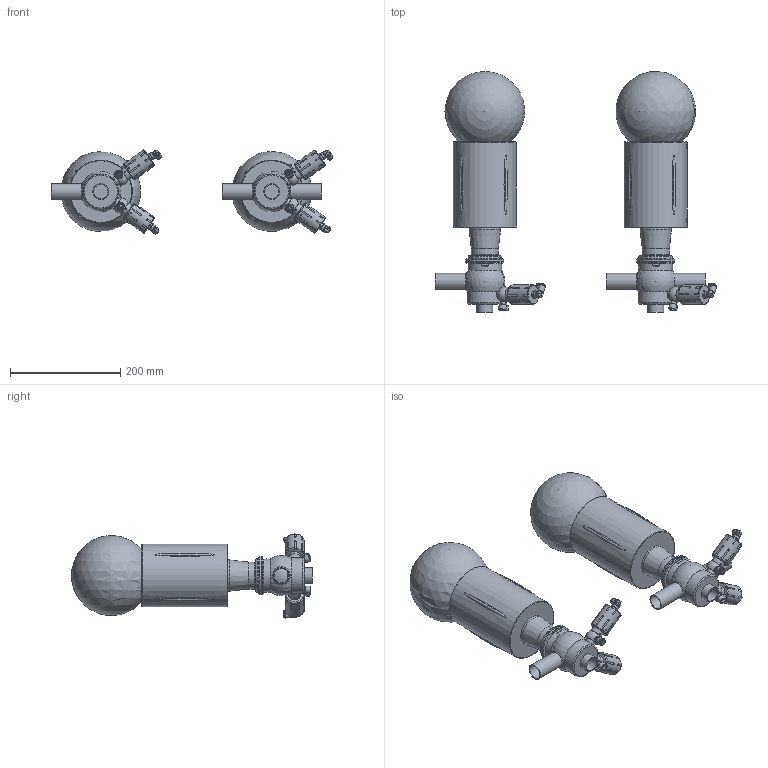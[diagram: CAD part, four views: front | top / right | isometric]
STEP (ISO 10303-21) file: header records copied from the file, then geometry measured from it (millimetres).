
FILE_DESCRIPTION(/* description */ (''),/* implementation_level */ '2;1');
FILE_NAME(/* name */ 'C:\Users\marz-m\Downloads\BZZAW3 3D STEP\BZAW3-DN029X1.5-SAL.stp',/* time_stamp */ '2018-09-26T10:10:08+02:00',/* author */ ('marz-m'),/* organization */ (''),/* preprocessor_version */ 'ST-DEVELOPER v17',/* originating_system */ 'Autodesk Inventor 2018',/* authorisation */ '');
FILE_SCHEMA (('AUTOMOTIVE_DESIGN { 1 0 10303 214 3 1 1 }'));
Length unit declared in the file: millimetre
Products named in the file (7): BZAW3-DN029-SAL; Assemblaggio-DN040; CIL108; SAGOMA-GIOTTO-; Valvolina 3A; TRH5A0025BBA; TRH6A0025BBA
Assembly tree (12 placements, depth 2):
  BZAW3-DN029-SAL
    SAGOMA-GIOTTO-  x2
    CIL108  x2
    Assemblaggio-DN040  x2
    Valvolina 3A  x4
    TRH5A0025BBA
    TRH6A0025BBA
Bounding box: 510.61 x 436.47 x 152.38 mm (x, y, z)
Volume: 4963074.2 mm3; surface area: 589220.1 mm2
Topology: 12 solids, 12 shells, 652 faces, 1875 edges, 1328 vertices
Faces by surface type: plane 283, cylinder 196, cone 89, bspline 44, torus 29, sphere 11
Full cylindrical faces by diameter (mm): 2 x8, 6 x16, 7 x4, 8 x4, 8.1 x4, 8.566 x4, 10 x4, 11 x4, 11.5 x4, 12.918 x4, 13.157 x4, 14 x4, 15.9 x4, 16 x4, 20 x4, 22 x4, 26 x5, 29 x5, 35 x4, 49 x2, 57 x2, 61 x4, 64 x2, 69 x4, 108.5 x2, 114 x2
Entity records: 10540 total; most frequent: CARTESIAN_POINT 3936, DIRECTION 1317, ORIENTED_EDGE 1312, EDGE_CURVE 656, AXIS2_PLACEMENT_3D 556, VERTEX_POINT 478, CIRCLE 305, EDGE_LOOP 280
